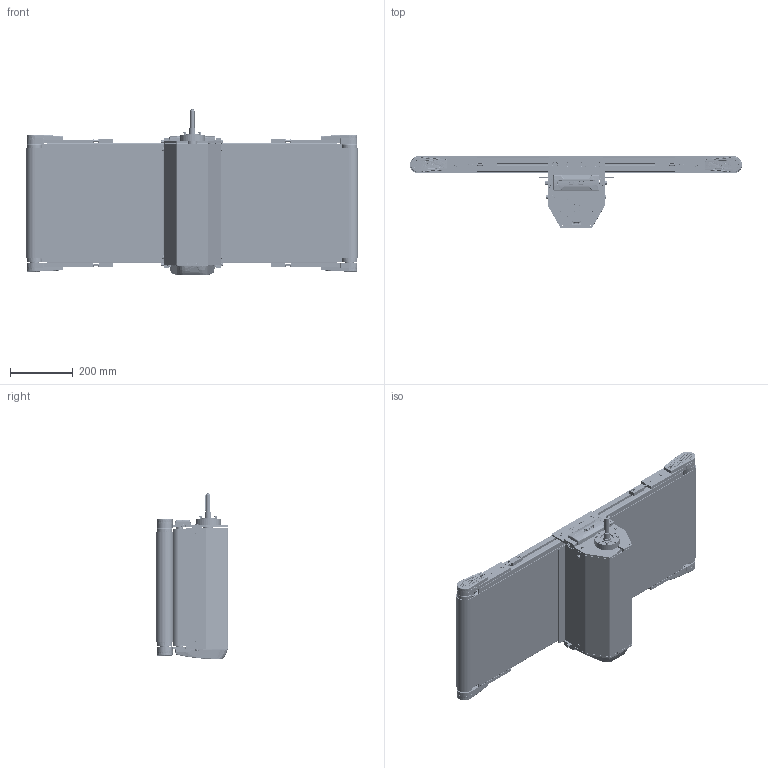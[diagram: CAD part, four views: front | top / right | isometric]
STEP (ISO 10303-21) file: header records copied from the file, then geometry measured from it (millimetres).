
FILE_DESCRIPTION (( 'STEP AP203' ), '1' );
FILE_NAME ('NASTRO_RETTILINEO_TAPPETO.step', '2026-04-23T12:57:57', ( 'Utente Windows' ), ( '' ), 'SwSTEP 2.0', 'SolidWorks 2024', '' );
FILE_SCHEMA (( 'CONFIG_CONTROL_DESIGN' ));
Length unit declared in the file: millimetre
Products named in the file (58): 084.303.001; 084.802.070; 084.302.000 DADI ALUSIC 13x13_084.302.015; RULLO_95_Default<A macchina>; 30UNI7435; VITI TE UNI 5739_M6x12 UNI 5739; BLOCCO_PERNO_95_RINVIO; 084.802.071; VITE_DADO_M5X12; 084.802.008; DADI ESAGONALI NORMALI UNI 5588_M6 UNI 5588; PERNO_TENSIONAMENTO_50-95_CENTRALE; BLOCCO_RINVIO_50_STANDARD; 084.802.021; VITI TE UNI 5739_M6x50 UNI 5739; LAMIERA_STANDARD; 084.812.003; 084.301.000 VITI ALUSIC_084.301.009; TRAVERSA_50-95_CENTRALE_Default<A macchina>; 084.802.017_084.802.017; 084.802.009; RONDELLE FASCIA LARGA UNI 6593_5.4x20 UNI 6593; 084.802.004-1; CHIAVETTE_A 5x5x50 UNI 6604-69; BLOCCO_TRAINO_50-95_CENTRALE; VITI TSEI UNI 5933_M8x20 UNI 5933; RONDELLE UNI 6592_8.4x17 UNI 6592; 084.302.000 DADI ALUSIC 13x13-1_084.302.007; VITI TE UNI 5739_M6x16 UNI 5739; RONDELLE UNI 6592_6.4x12.5 UNI 6592; VITI TSEI UNI 5933_M5x12 UNI 5933; CARTER_50-95_CENTRALE; BLOCCO_TRAINO_50-95_CENTRALE_30; TELAIO_50_STANDARD_Default<A macchina>; 084.814.001-1; CHIAVETTE_A 8x7x20 UNI 6604-69; 084.811.004; RULLO_TENSIONAMENTO_50-95_CENTRALE; VITI TSEI UNI 5933_M8x16 UNI 5933; 084.810.001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
Assembly tree (129 placements, depth 3):
  NASTRO_RETTILINEO_TAPPETO
    TAPPETO_CENTRALE
    TELAIO_50_STANDARD_Default<A macchina>
    LAMIERA_STANDARD
    RULLO_50_Default<A macchina>  x2
    BLOCCO_PERNO_50_RINVIO  x4
      084.811.004
      084.810.001
    BLOCCO_RINVIO_50_STANDARD  x4
      084.807.002_084.807.002
      084.802.017_084.802.017
      084.802.008
      084.301.000 VITI ALUSIC_084.301.003
      084.302.000 DADI ALUSIC 13x13_084.302.004
      VITI TSEI UNI 5933_M4x10 UNI 5933
      084.802.071
    RULLO_95_Default<A macchina>
    BLOCCO_TRAINO_50-95_CENTRALE_30
      084.802.009
      084.802.021
      084.802.004-1  x2
      084.802.003
      VITI TSEI UNI 5933_M8x20 UNI 5933  x4
      084.302.017
      VITI TE UNI 5739_M6x16 UNI 5739  x6
      RONDELLE UNI 6592_6.4x12.5 UNI 6592  x2
      DADI ESAGONALI NORMALI UNI 5588_M6 UNI 5588  x2
      VITI TE UNI 5739_M6x50 UNI 5739  x2
      VITI TSEI UNI 5933_M6x12 UNI 5933  x6
      VITI TSEI UNI 5933_M8x16 UNI 5933  x3
      084.802.070
    BLOCCO_TRAINO_50-95_CENTRALE
      084.802.004-1  x2
      084.802.020
      084.802.003
      VITI TSEI UNI 5933_M8x20 UNI 5933  x4
      VITI TSEI UNI 5933_M6x12 UNI 5933  x6
      RONDELLE UNI 6592_8.4x17 UNI 6592  x2
      VITI TE UNI 5739_M8x12 UNI 5739  x2
      VITI TE UNI 5739_M6x16 UNI 5739  x2
      084.302.017
      RONDELLE UNI 6592_6.4x12.5 UNI 6592  x2
      VITI TE UNI 5739_M6x50 UNI 5739  x2
      DADI ESAGONALI NORMALI UNI 5588_M6 UNI 5588  x2
      084.802.064
    BLOCCO_PERNO_50_CENTRALE_30
      084.814.001-1
      084.810.003
      RONDELLE FASCIA LARGA UNI 6593_5.4x20 UNI 6593
      084.301.000 VITI ALUSIC_084.301.009
      CHIAVETTE_A 5x5x50 UNI 6604-69
      CHIAVETTE_A 8x7x20 UNI 6604-69
      30UNI7435
    BLOCCO_PERNO_95_RINVIO
      084.812.003
      084.810.003
      30UNI7435
    CARTER_50-95_CENTRALE
    RULLO_TENSIONAMENTO_50-95_CENTRALE  x2
    PERNO_TENSIONAMENTO_50-95_CENTRALE  x2
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Bounding box: 1054 x 227.5 x 528.3 mm (x, y, z)
Volume: 7789094.6 mm3; surface area: 6343833.4 mm2
Topology: 193 solids, 197 shells, 7744 faces, 19745 edges, 12590 vertices
Faces by surface type: plane 3575, cylinder 2146, cone 913, bspline 757, torus 314, sphere 39
Entity records: 142437 total; most frequent: CARTESIAN_POINT 48828, ORIENTED_EDGE 18936, DIRECTION 16493, EDGE_CURVE 9468, VERTEX_POINT 6084, AXIS2_PLACEMENT_3D 5833, LINE 4827, VECTOR 4827
